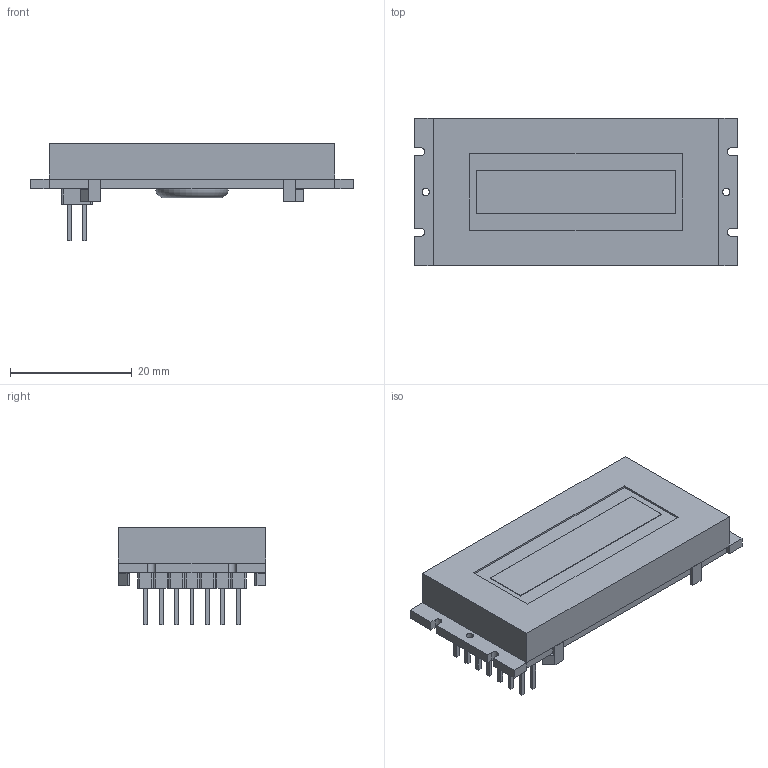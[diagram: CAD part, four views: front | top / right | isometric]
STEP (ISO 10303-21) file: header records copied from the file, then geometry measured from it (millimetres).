
FILE_DESCRIPTION (( 'STEP AP214' ), '1' );
FILE_NAME ('NHD-0108BZ.STEP', '2018-03-13T16:24:17', ( '' ), ( '' ), 'SwSTEP 2.0', 'SolidWorks 2018', '' );
FILE_SCHEMA (( 'AUTOMOTIVE_DESIGN' ));
Length unit declared in the file: millimetre
Products named in the file (1): NHD-0108BZ
Bounding box: 53 x 24.2 x 16.04 mm (x, y, z)
Volume: 9000.1 mm3; surface area: 6349.3 mm2
Topology: 2 solids, 2 shells, 210 faces, 552 edges, 364 vertices
Faces by surface type: plane 170, cylinder 38, torus 2
Entity records: 8763 total; most frequent: CARTESIAN_POINT 1127, ORIENTED_EDGE 1104, DIRECTION 1056, EDGE_CURVE 552, LINE 470, VECTOR 470, VERTEX_POINT 364, AXIS2_PLACEMENT_3D 293
